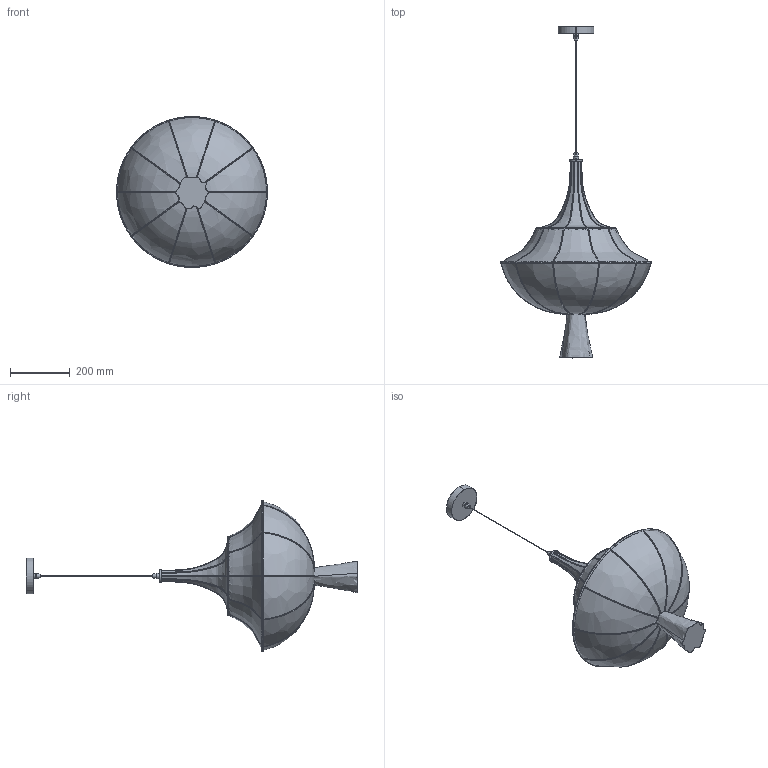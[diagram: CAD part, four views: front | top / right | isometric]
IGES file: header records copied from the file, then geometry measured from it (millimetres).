
Start section: SolidWorks IGES file using analytic representation for surfaces
Global section: file name: F:\燠隴矨\3D\2024-8堎\Meduse Pendant Lamp-D50CM.IGS; native system: SolidWorks 2022; preprocessor: SolidWorks 2022; author: MyPC; date: 240802.202220; units: millimetre
Bounding box: 505.92 x 1113.33 x 506.43 mm (x, y, z)
Surface area: 747224.6 mm2 (no closed solid volume)
Topology: 0 solids, 0 shells, 167 faces, 4395 edges, 4395 vertices
Faces by surface type: bspline 145, revolution 22
